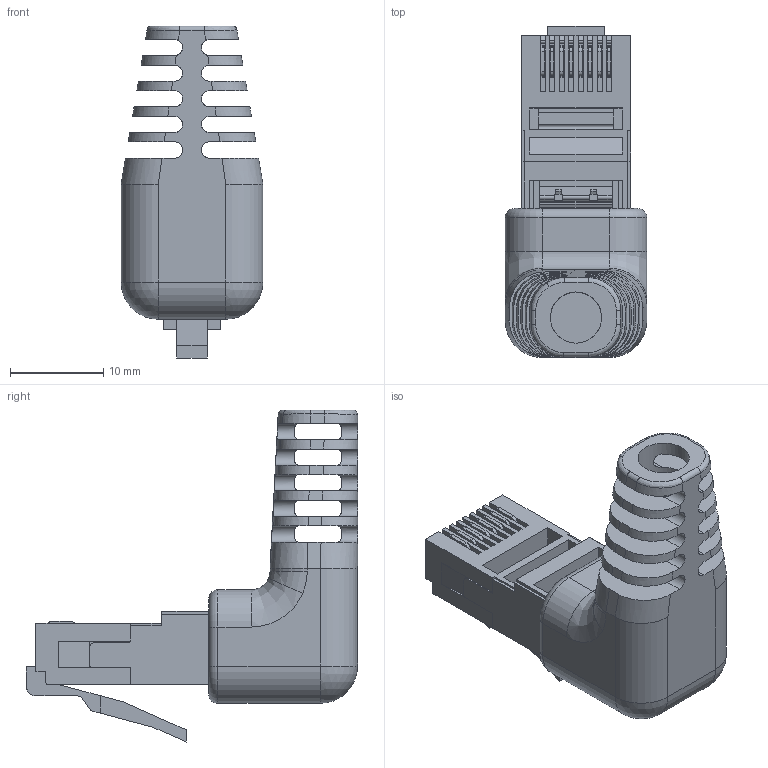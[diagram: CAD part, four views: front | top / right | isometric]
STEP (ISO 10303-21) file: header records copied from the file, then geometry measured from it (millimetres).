
FILE_DESCRIPTION((''),'2;1');
FILE_NAME('C:\TurckZip\MFGD0185.stp','2007-12-21T10:54:58',('IKOROL'),(''),'Autodesk Inventor 2008','Autodesk Inventor 2008','');
FILE_SCHEMA(('AUTOMOTIVE_DESIGN { 1 2 10303 214 0 1 1 1 }'));
Length unit declared in the file: millimetre
Products named in the file (1): Part1
Bounding box: 15.24 x 35.56 x 35.66 mm (x, y, z)
Volume: 4839.8 mm3; surface area: 4513.2 mm2
Topology: 1 solids, 1 shells, 595 faces, 1891 edges, 1256 vertices
Faces by surface type: plane 459, cylinder 95, bspline 35, torus 4, sphere 2
Full cylindrical faces by diameter (mm): 5.5 x1
Entity records: 23479 total; most frequent: CARTESIAN_POINT 8363, ORIENTED_EDGE 3746, DIRECTION 2341, EDGE_CURVE 1873, VERTEX_POINT 1246, VECTOR 823, LINE 823, AXIS2_PLACEMENT_3D 759
